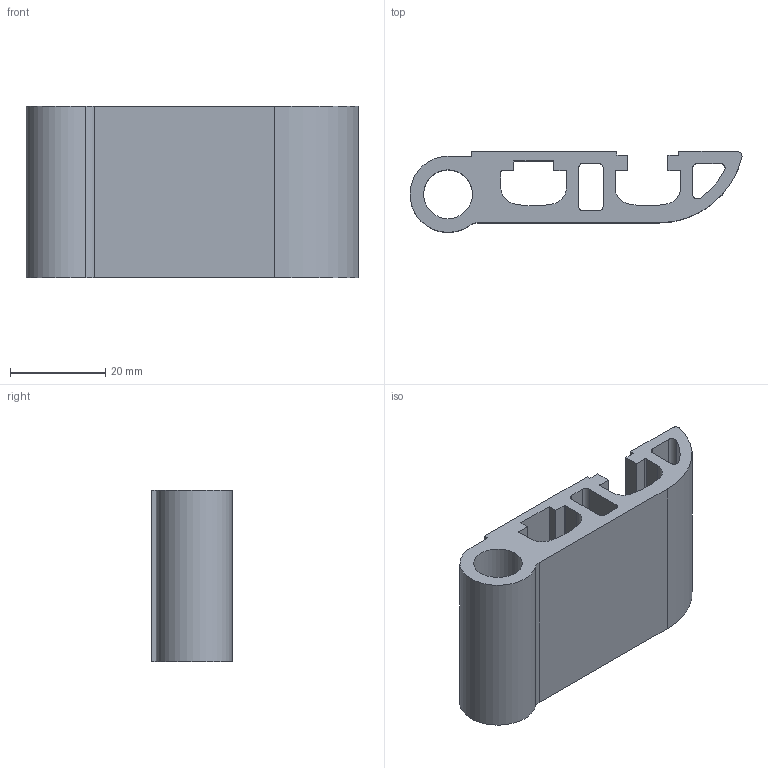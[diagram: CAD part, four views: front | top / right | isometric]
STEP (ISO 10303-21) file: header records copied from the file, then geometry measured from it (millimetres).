
FILE_DESCRIPTION (( 'STEP AP214' ), '1' );
FILE_NAME ('N50129.step', '2024-12-03T16:27:37', ( '' ), ( '' ), 'SwSTEP 2.0', 'SolidWorks 2023', '' );
FILE_SCHEMA (( 'AUTOMOTIVE_DESIGN' ));
Length unit declared in the file: millimetre
Products named in the file (1): N50129
Bounding box: 69.77 x 16.98 x 36 mm (x, y, z)
Volume: 19832.9 mm3; surface area: 12383.3 mm2
Topology: 1 solids, 1 shells, 57 faces, 165 edges, 110 vertices
Faces by surface type: plane 32, cylinder 25
Full cylindrical faces by diameter (mm): 10.25 x1
Entity records: 1927 total; most frequent: CARTESIAN_POINT 332, DIRECTION 330, ORIENTED_EDGE 328, EDGE_CURVE 164, LINE 114, VECTOR 114, VERTEX_POINT 110, AXIS2_PLACEMENT_3D 108
